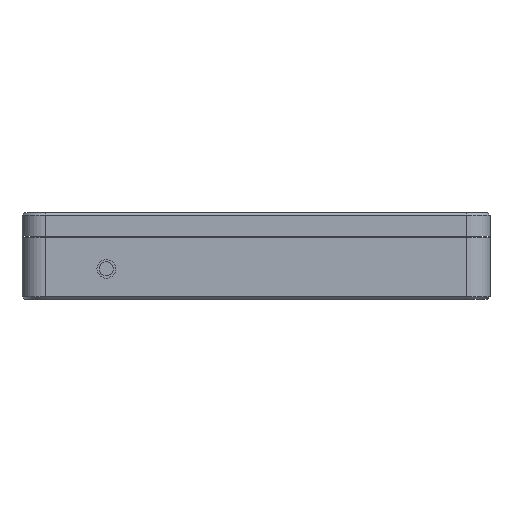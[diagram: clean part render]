
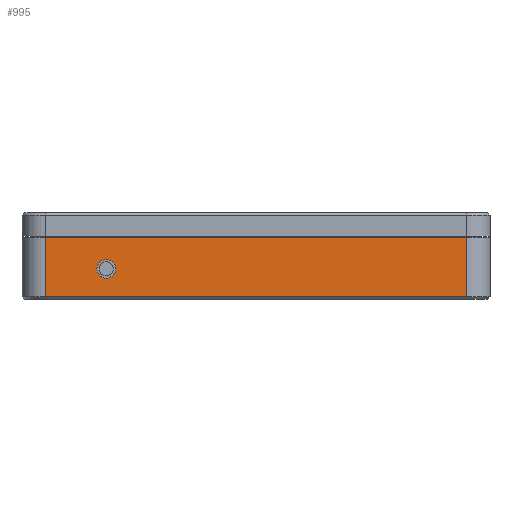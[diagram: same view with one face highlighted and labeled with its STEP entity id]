
A CAD part, front view. The second image highlights one B-rep face of the part: STEP entity #995.
In plain terms, the highlighted planar face has unit normal (0, -1, 0).
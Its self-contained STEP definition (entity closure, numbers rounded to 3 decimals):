
#587 = VERTEX_POINT ( 'NONE', #10691 ) ;
#620 = LINE ( 'NONE', #8152, #4040 ) ;
#995 = ADVANCED_FACE ( 'NONE', ( #6105, #33751 ), #30950, .F. ) ;
#1002 = CARTESIAN_POINT ( 'NONE',  ( -64., -100., 13. ) ) ;
#1973 = CARTESIAN_POINT ( 'NONE',  ( -64., -100., 9. ) ) ;
#2759 = CIRCLE ( 'NONE', #28768, 4. ) ;
#3839 = ORIENTED_EDGE ( 'NONE', *, *, #4721, .F. ) ;
#4040 = VECTOR ( 'NONE', #22910, 1000. ) ;
#4651 = DIRECTION ( 'NONE',  ( 0., 0., 1. ) ) ;
#4721 = EDGE_CURVE ( 'NONE', #16547, #32975, #18329, .T. ) ;
#6105 = FACE_OUTER_BOUND ( 'NONE', #29814, .T. ) ;
#6644 = EDGE_CURVE ( 'NONE', #587, #29714, #45283, .T. ) ;
#8152 = CARTESIAN_POINT ( 'NONE',  ( -100., -100., 1. ) ) ;
#8565 = EDGE_CURVE ( 'NONE', #9698, #32017, #620, .T. ) ;
#9070 = CARTESIAN_POINT ( 'NONE',  ( -90., -100., 26.5 ) ) ;
#9217 = DIRECTION ( 'NONE',  ( 0., 0., -1. ) ) ;
#9393 = DIRECTION ( 'NONE',  ( 0., 1., 0. ) ) ;
#9698 = VERTEX_POINT ( 'NONE', #40911 ) ;
#10207 = VECTOR ( 'NONE', #16821, 1000. ) ;
#10691 = CARTESIAN_POINT ( 'NONE',  ( -64., -100., 17. ) ) ;
#12577 = DIRECTION ( 'NONE',  ( 0., -1., 0. ) ) ;
#16547 = VERTEX_POINT ( 'NONE', #9070 ) ;
#16821 = DIRECTION ( 'NONE',  ( 0., 0., 1. ) ) ;
#16865 = ORIENTED_EDGE ( 'NONE', *, *, #29442, .F. ) ;
#17957 = CARTESIAN_POINT ( 'NONE',  ( -90., -100., 1. ) ) ;
#18329 = LINE ( 'NONE', #43488, #27947 ) ;
#21258 = EDGE_CURVE ( 'NONE', #32017, #16547, #28211, .T. ) ;
#22910 = DIRECTION ( 'NONE',  ( -1., 0., 0. ) ) ;
#23479 = ORIENTED_EDGE ( 'NONE', *, *, #8565, .F. ) ;
#26216 = DIRECTION ( 'NONE',  ( 0., -1., 0. ) ) ;
#26251 = AXIS2_PLACEMENT_3D ( 'NONE', #34126, #12577, #37714 ) ;
#27155 = CARTESIAN_POINT ( 'NONE',  ( 90., -100., 37. ) ) ;
#27947 = VECTOR ( 'NONE', #43636, 1000. ) ;
#28211 = LINE ( 'NONE', #38398, #10207 ) ;
#28768 = AXIS2_PLACEMENT_3D ( 'NONE', #1002, #26216, #4651 ) ;
#29442 = EDGE_CURVE ( 'NONE', #29714, #587, #2759, .T. ) ;
#29714 = VERTEX_POINT ( 'NONE', #1973 ) ;
#29814 = EDGE_LOOP ( 'NONE', ( #37836, #23479, #39999, #3839 ) ) ;
#30950 = PLANE ( 'NONE',  #46594 ) ;
#32017 = VERTEX_POINT ( 'NONE', #17957 ) ;
#32975 = VERTEX_POINT ( 'NONE', #40326 ) ;
#33751 = FACE_BOUND ( 'NONE', #45930, .T. ) ;
#34126 = CARTESIAN_POINT ( 'NONE',  ( -64., -100., 13. ) ) ;
#34546 = EDGE_CURVE ( 'NONE', #32975, #9698, #40318, .T. ) ;
#34585 = DIRECTION ( 'NONE',  ( 0., 0., 1. ) ) ;
#37296 = ORIENTED_EDGE ( 'NONE', *, *, #6644, .F. ) ;
#37714 = DIRECTION ( 'NONE',  ( 0., 0., 1. ) ) ;
#37836 = ORIENTED_EDGE ( 'NONE', *, *, #21258, .F. ) ;
#38398 = CARTESIAN_POINT ( 'NONE',  ( -90., -100., 37. ) ) ;
#39184 = VECTOR ( 'NONE', #9217, 1000. ) ;
#39999 = ORIENTED_EDGE ( 'NONE', *, *, #34546, .F. ) ;
#40318 = LINE ( 'NONE', #27155, #39184 ) ;
#40326 = CARTESIAN_POINT ( 'NONE',  ( 90., -100., 26.5 ) ) ;
#40911 = CARTESIAN_POINT ( 'NONE',  ( 90., -100., 1. ) ) ;
#43488 = CARTESIAN_POINT ( 'NONE',  ( 0., -100., 26.5 ) ) ;
#43636 = DIRECTION ( 'NONE',  ( 1., 0., 0. ) ) ;
#45261 = CARTESIAN_POINT ( 'NONE',  ( -100., -100., 37. ) ) ;
#45283 = CIRCLE ( 'NONE', #26251, 4. ) ;
#45930 = EDGE_LOOP ( 'NONE', ( #37296, #16865 ) ) ;
#46594 = AXIS2_PLACEMENT_3D ( 'NONE', #45261, #9393, #34585 ) ;
